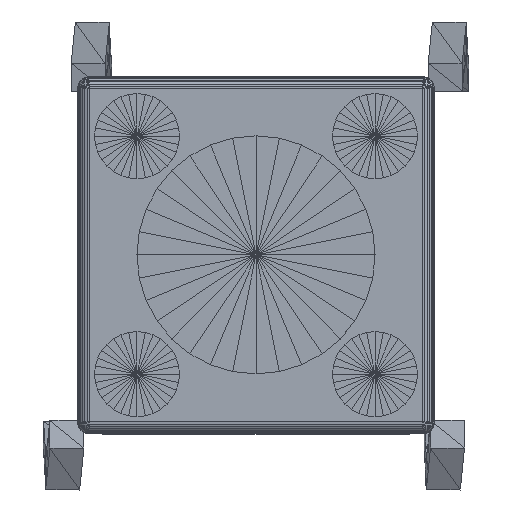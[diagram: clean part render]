
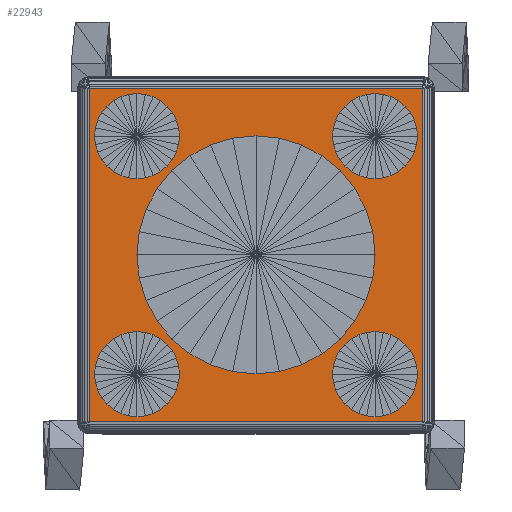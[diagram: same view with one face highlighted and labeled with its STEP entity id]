
A CAD part, top view. The second image highlights one B-rep face of the part: STEP entity #22943.
In plain terms, the highlighted planar face has unit normal (0, 0, 1).
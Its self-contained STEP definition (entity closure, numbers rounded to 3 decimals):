
#22636 = CARTESIAN_POINT('',(1.96,1.96,3.205));
#22637 = VERTEX_POINT('',#22636);
#22657 = CARTESIAN_POINT('',(-1.96,1.96,3.205));
#22658 = VERTEX_POINT('',#22657);
#22678 = CARTESIAN_POINT('',(-1.96,-1.96,3.205));
#22679 = VERTEX_POINT('',#22678);
#22699 = CARTESIAN_POINT('',(1.96,-1.96,3.205));
#22700 = VERTEX_POINT('',#22699);
#22722 = DIRECTION('',(1.,0.,0.));
#22723 = VECTOR('',#22722,1.);
#22724 = LINE('',#22657,#22723);
#22725 = EDGE_CURVE('',#22658,#22637,#22724,.T.);
#22738 = DIRECTION('',(0.,1.,0.));
#22739 = VECTOR('',#22738,1.);
#22740 = LINE('',#22678,#22739);
#22741 = EDGE_CURVE('',#22679,#22658,#22740,.T.);
#22754 = DIRECTION('',(1.,0.,0.));
#22755 = VECTOR('',#22754,1.);
#22756 = LINE('',#22678,#22755);
#22757 = EDGE_CURVE('',#22679,#22700,#22756,.T.);
#22770 = DIRECTION('',(0.,1.,0.));
#22771 = VECTOR('',#22770,1.);
#22772 = LINE('',#22699,#22771);
#22773 = EDGE_CURVE('',#22700,#22637,#22772,.T.);
#22932 = ORIENTED_EDGE('',*,*,#22725,.F.);
#22933 = ORIENTED_EDGE('',*,*,#22741,.F.);
#22934 = ORIENTED_EDGE('',*,*,#22757,.T.);
#22935 = ORIENTED_EDGE('',*,*,#22773,.T.);
#22936 = CARTESIAN_POINT('',(1.96,1.96,3.205));
#22937 = DIRECTION('',(0.,0.,1.));
#22938 = DIRECTION('',(-1.,0.,0.));
#22939 = AXIS2_PLACEMENT_3D('',#22936,#22937,#22938);
#22940 = PLANE('',#22939);
#22941 = EDGE_LOOP('',(#22932,#22933,#22934,#22935));
#22942 = FACE_OUTER_BOUND('',#22941,.T.);
#22943 = ADVANCED_FACE('',(#22942),#22940,.T.);
